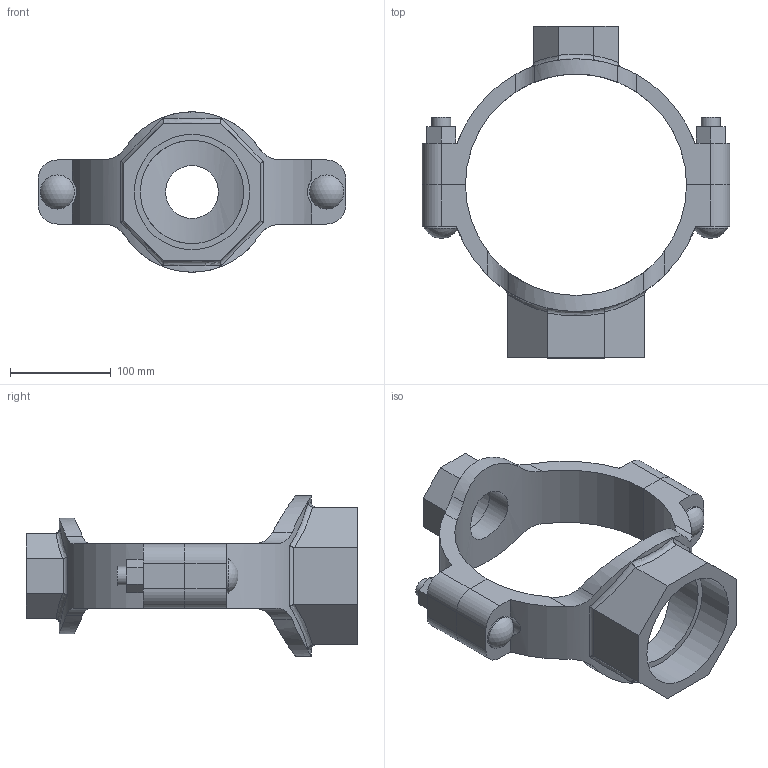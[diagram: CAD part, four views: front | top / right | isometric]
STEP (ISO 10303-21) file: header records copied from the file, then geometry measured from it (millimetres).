
FILE_DESCRIPTION(/* description */ ('VIC MECH-T BRANCH OUTLET CROSS STYLE 920N (THD)','CAx-IF Rec.Pracs.---Representation and Presentation of Product Manufacturing Information (PMI)---4.0---2014-10-13'),/* implementation_level */ '2;1');
FILE_NAME(/* name */ 'C:\Users\Vjadhav\AppData\Roaming\Autodesk\ApplicationPlugins\Back Up\Victaulic_IPS_Mechanical-Cross Outlet_Style 920N (FPT)\Victaulic_IPS_Mechanical-Cross Outlet_08.0x02.0x04.0 (200x50x100).stp',/* time_stamp */ '2020-08-06T19:00:53+06:00',/* author */ ('Vjadhav'),/* organization */ ('Victaulic'),/* preprocessor_version */ 'ST-DEVELOPER v17.2',/* originating_system */ 'Autodesk Inventor 2019',/* authorisation */ '');
FILE_SCHEMA (('AP242_MANAGED_MODEL_BASED_3D_ENGINEERING_MIM_LF { 1 0 10303 442 1 1 4 }'));
Length unit declared in the file: inch
Products named in the file (3): 920NT-08.0x02.0x04.0; 920T-08.0x02.0; 920T-08.0x04.0
Assembly tree (2 placements, depth 2):
  920NT-08.0x02.0x04.0
    920T-08.0x02.0
    920T-08.0x04.0
Bounding box: 304.8 x 328.68 x 158.74 mm (x, y, z)
Volume: 1495754.6 mm3; surface area: 246293 mm2
Topology: 2 solids, 2 shells, 132 faces, 350 edges, 236 vertices
Faces by surface type: plane 68, cylinder 50, bspline 8, torus 4, sphere 2
Full cylindrical faces by diameter (mm): 19.05 x4, 33.843 x2, 52.387 x1, 60.325 x1, 102.394 x1, 114.3 x1
Entity records: 5170 total; most frequent: CARTESIAN_POINT 1657, ORIENTED_EDGE 700, DIRECTION 648, EDGE_CURVE 350, VERTEX_POINT 236, AXIS2_PLACEMENT_3D 231, LINE 186, VECTOR 186
